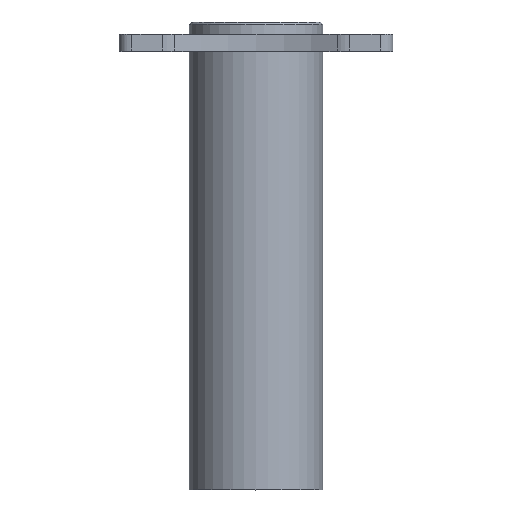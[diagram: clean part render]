
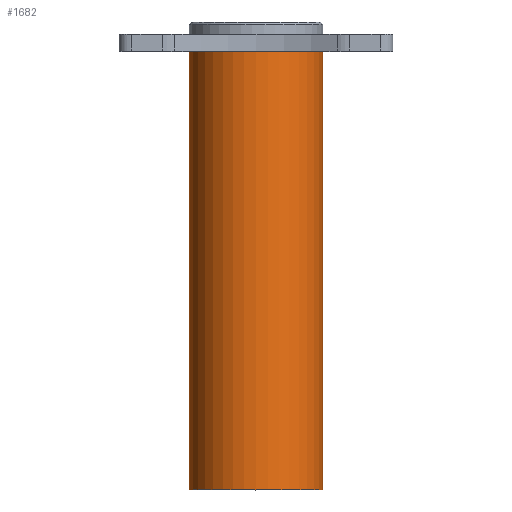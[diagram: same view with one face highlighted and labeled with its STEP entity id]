
A CAD part, top view. The second image highlights one B-rep face of the part: STEP entity #1682.
In plain terms, the highlighted cylindrical face has radius 50.8 mm (diameter 101.6 mm), a full revolution.
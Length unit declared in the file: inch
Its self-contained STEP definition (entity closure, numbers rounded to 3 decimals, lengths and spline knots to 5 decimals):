
#150 = CARTESIAN_POINT ( 'NONE',  ( 0., 0., 13.625 ) ) ;
#185 = DIRECTION ( 'NONE',  ( 1., 0., 0. ) ) ;
#222 = DIRECTION ( 'NONE',  ( 0., 0., 1. ) ) ;
#232 = VERTEX_POINT ( 'NONE', #873 ) ;
#315 = DIRECTION ( 'NONE',  ( 1., 0., 0. ) ) ;
#495 = CARTESIAN_POINT ( 'NONE',  ( 0., 0., 13.625 ) ) ;
#538 = CIRCLE ( 'NONE', #1974, 2. ) ;
#873 = CARTESIAN_POINT ( 'NONE',  ( 2., 0., 0. ) ) ;
#963 = EDGE_LOOP ( 'NONE', ( #1038 ) ) ;
#988 = FACE_OUTER_BOUND ( 'NONE', #963, .T. ) ;
#1038 = ORIENTED_EDGE ( 'NONE', *, *, #1602, .F. ) ;
#1113 = DIRECTION ( 'NONE',  ( 0., 0., 1. ) ) ;
#1122 = DIRECTION ( 'NONE',  ( 0., 0., -1. ) ) ;
#1192 = CIRCLE ( 'NONE', #1364, 2. ) ;
#1193 = AXIS2_PLACEMENT_3D ( 'NONE', #495, #1122, #1770 ) ;
#1283 = FACE_OUTER_BOUND ( 'NONE', #1625, .T. ) ;
#1364 = AXIS2_PLACEMENT_3D ( 'NONE', #1667, #1113, #185 ) ;
#1367 = CARTESIAN_POINT ( 'NONE',  ( 2., 0., 13.625 ) ) ;
#1546 = EDGE_CURVE ( 'NONE', #232, #232, #1192, .T. ) ;
#1602 = EDGE_CURVE ( 'NONE', #2000, #2000, #538, .T. ) ;
#1625 = EDGE_LOOP ( 'NONE', ( #1978 ) ) ;
#1667 = CARTESIAN_POINT ( 'NONE',  ( 0., 0., 0. ) ) ;
#1682 = ADVANCED_FACE ( 'NONE', ( #988, #1283 ), #1930, .T. ) ;
#1770 = DIRECTION ( 'NONE',  ( -1., 0., 0. ) ) ;
#1930 = CYLINDRICAL_SURFACE ( 'NONE', #1193, 2. ) ;
#1974 = AXIS2_PLACEMENT_3D ( 'NONE', #150, #222, #315 ) ;
#1978 = ORIENTED_EDGE ( 'NONE', *, *, #1546, .T. ) ;
#2000 = VERTEX_POINT ( 'NONE', #1367 ) ;
